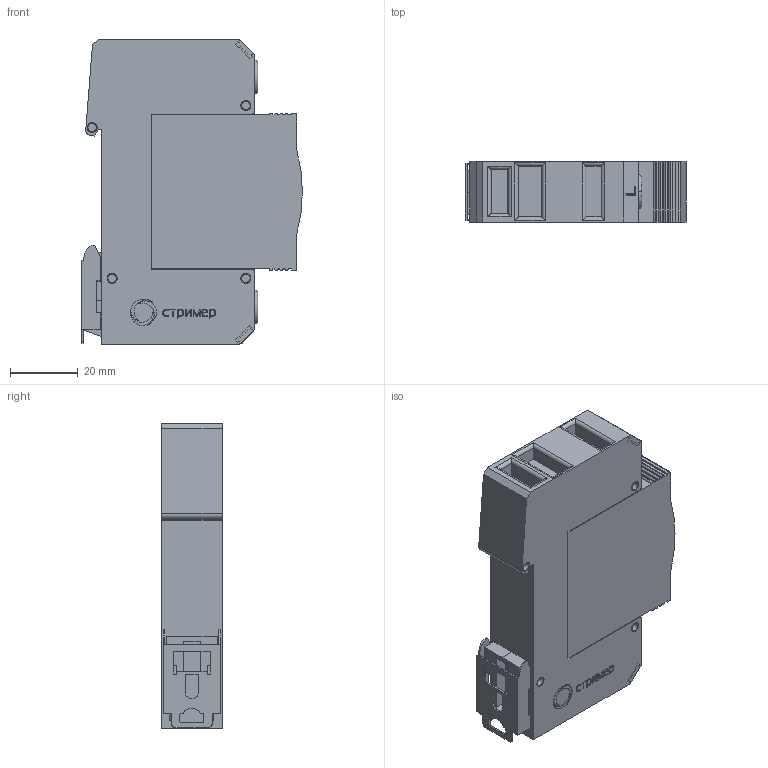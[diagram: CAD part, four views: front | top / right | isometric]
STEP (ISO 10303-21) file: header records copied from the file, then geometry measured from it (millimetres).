
FILE_DESCRIPTION(('TFLEX Exchange Step'),'2;1');
FILE_NAME('X2\041004400442\X0\.121_001.stp', '2022-07-15T15:57:29+03:00',('Pavel Oborin'),('Unknown organisation'),'TFLEX Exchange 2019.2','T-FLEX CAD','Unknown authorisation');
FILE_SCHEMA( ('AUTOMOTIVE_DESIGN { 1 0 10303 214 1 1 1 1 }') );
Length unit declared in the file: millimetre
Products named in the file (7): 0; Буква L; буква N; Планка; ВНЕШНИЙ МОДУЛЬ 18; Корпус 18; Арт.121_001
Assembly tree (6 placements, depth 2):
  Арт.121_001
    0
    Буква L
    буква N
    Планка
    ВНЕШНИЙ МОДУЛЬ 18
    Корпус 18
Bounding box: 65.19 x 18.1 x 90.05 mm (x, y, z)
Volume: 84091.8 mm3; surface area: 23912 mm2
Topology: 31 solids, 31 shells, 478 faces, 1191 edges, 782 vertices
Faces by surface type: plane 320, cylinder 123, bspline 31, torus 4
Entity records: 17583 total; most frequent: CARTESIAN_POINT 5873, ORIENTED_EDGE 2382, DIRECTION 2295, EDGE_CURVE 1191, VECTOR 899, LINE 899, VERTEX_POINT 782, AXIS2_PLACEMENT_3D 698
